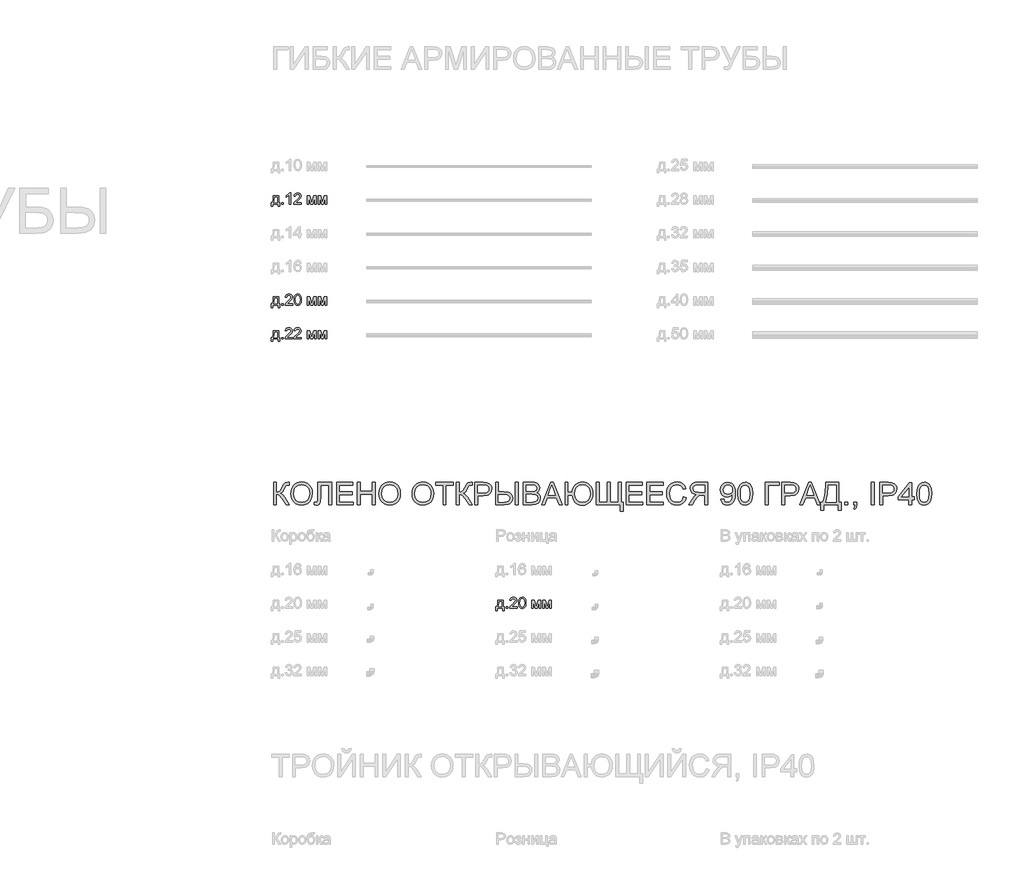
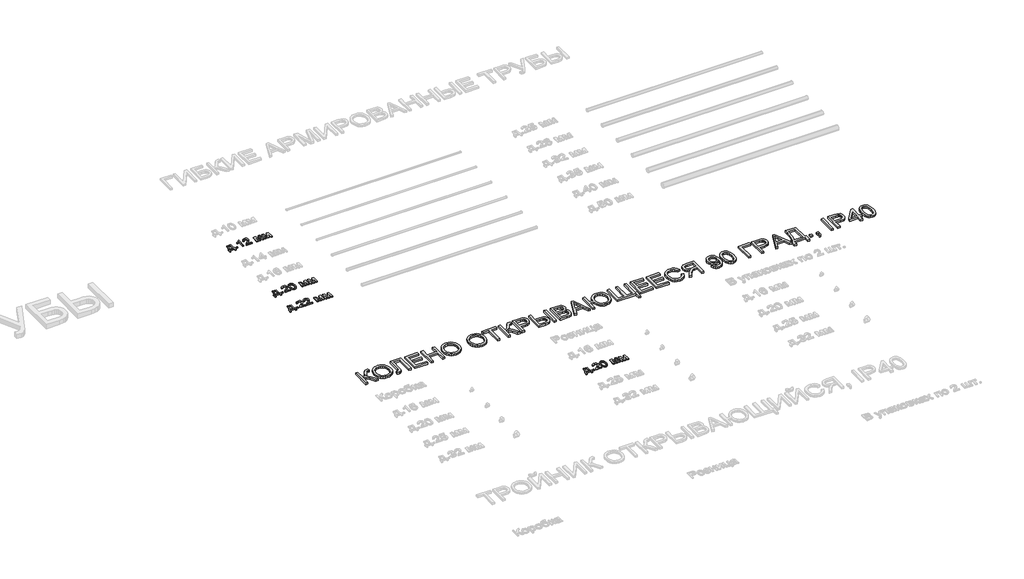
# One storey, part 81 of 98: 5 proxies.
"""IFC4 building model written with IfcOpenShell, lengths in millimetres."""

from ifc_helpers import new_model, si_unit, origin, origin_with_axes, place, context, project, spatial, polyline, outline, extrude, element, save

model = new_model("IFC4")

# Units and contexts
model_context = context("Model", 3, world=origin())
ifc_project = project(units=[si_unit("LENGTHUNIT", "METRE", prefix="MILLI")], contexts=[model_context])

# Site, building, storey
site = spatial("IfcSite", under=ifc_project)
building = spatial("IfcBuilding", under=site)
storey = spatial("IfcBuildingStorey", under=building, Name="Этаж 01", Elevation=0.0)

# Proxies
placement = place(None, origin())
element("IfcBuildingElementProxy", 1, Name="100", ObjectType="100", at=placement, inside=storey, context=model_context, shape_type="SweptSolid", body=[
    extrude(outline(polyline([(-26.9858135, -12085.678477), (20.1030819, -12085.678477), (20.1030819, -12146.894041), (29.520861, -12146.894041), (29.520861, -12179.8562677), (16.9638222, -12179.8562677), (16.9638222, -12159.4510797), (-34.8339627, -12159.4510797), (-34.8339627, -12179.8562677), (-47.3910015, -12179.8562677), (-47.3910015, -12146.894041), (-39.5428522, -12146.894041), (-29.8430303, -12122.9449231), (-26.9858135, -12085.678477)]), holes=[polyline([(-15.9984045, -12098.2355157), (-18.9414605, -12126.8444722), (-25.4161836, -12146.894041), (7.5460431, -12146.894041), (7.5460431, -12098.2355157), (-15.9984045, -12098.2355157)])]), origin_with_axes(), (0.0, 0.0, 1.0), 10.0),
    extrude(outline(polyline([(46.7867893, -12159.4510797), (46.7867893, -12146.894041), (59.3438281, -12146.894041), (59.3438281, -12159.4510797), (46.7867893, -12159.4510797)])), origin_with_axes(), (0.0, 0.0, 1.0), 10.0),
    extrude(outline(polyline([(126.8379114, -12159.4510797), (114.2808727, -12159.4510797), (114.2808727, -12081.1657912), (102.3860215, -12089.6393398), (89.1667951, -12095.9791728), (89.1667951, -12084.1088471), (107.5731576, -12072.3611487), (118.7445076, -12058.9947696), (126.8379114, -12058.9947696), (126.8379114, -12159.4510797)])), origin_with_axes(), (0.0, 0.0, 1.0), 10.0),
    extrude(outline(polyline([(221.0157022, -12146.894041), (221.0157022, -12159.4510797), (155.0912487, -12159.4510797), (156.4401493, -12150.7935901), (164.0675694, -12137.4639991), (179.7883933, -12122.9081349), (201.4689055, -12101.9879121), (206.8890336, -12087.7631416), (201.7754739, -12076.2484351), (188.4213574, -12071.5518083), (174.5031553, -12076.1380705), (169.2179173, -12088.8177367), (156.6608785, -12087.2481068), (159.705102, -12075.1018696), (166.2871241, -12066.2297821), (176.0635881, -12060.8035227), (188.6911376, -12058.9947696), (201.4106576, -12061.0058578), (211.1687275, -12067.0391225), (217.3767361, -12076.0522314), (219.4460724, -12087.0028521), (217.2142549, -12098.9099661), (209.7953014, -12111.2217502), (191.8058718, -12128.4263648), (177.3603721, -12140.505157), (171.6949894, -12146.894041), (221.0157022, -12146.894041)])), origin_with_axes(), (0.0, 0.0, 1.0), 10.0),
    extrude(outline(polyline([(275.9527468, -12085.678477), (297.5596827, -12085.678477), (314.2124743, -12144.7357999), (332.1651157, -12085.678477), (352.8646093, -12085.678477), (352.8646093, -12159.4510797), (340.3075705, -12159.4510797), (340.3075705, -12100.0504002), (322.2568273, -12159.4510797), (305.7757139, -12159.4510797), (288.5097856, -12097.2054461), (288.5097856, -12159.4510797), (275.9527468, -12159.4510797), (275.9527468, -12085.678477)])), origin_with_axes(), (0.0, 0.0, 1.0), 10.0),
    extrude(outline(polyline([(371.7001674, -12085.678477), (393.3071033, -12085.678477), (409.9598949, -12144.7357999), (427.9125363, -12085.678477), (448.6120299, -12085.678477), (448.6120299, -12159.4510797), (436.0549911, -12159.4510797), (436.0549911, -12100.0504002), (418.0042479, -12159.4510797), (401.5231345, -12159.4510797), (384.2572062, -12097.2054461), (384.2572062, -12159.4510797), (371.7001674, -12159.4510797), (371.7001674, -12085.678477)])), origin_with_axes(), (0.0, 0.0, 1.0), 10.0),
])
element("IfcBuildingElementProxy", 2, Name="100", ObjectType="100", at=placement, inside=storey, context=model_context, shape_type="SweptSolid", body=[
    extrude(outline(polyline([(-26.9858135, -12985.678477), (20.1030819, -12985.678477), (20.1030819, -13046.894041), (29.520861, -13046.894041), (29.520861, -13079.8562677), (16.9638222, -13079.8562677), (16.9638222, -13059.4510797), (-34.8339627, -13059.4510797), (-34.8339627, -13079.8562677), (-47.3910015, -13079.8562677), (-47.3910015, -13046.894041), (-39.5428522, -13046.894041), (-29.8430303, -13022.9449231), (-26.9858135, -12985.678477)]), holes=[polyline([(-15.9984045, -12998.2355157), (-18.9414605, -13026.8444722), (-25.4161836, -13046.894041), (7.5460431, -13046.894041), (7.5460431, -12998.2355157), (-15.9984045, -12998.2355157)])]), origin_with_axes(), (0.0, 0.0, 1.0), 10.0),
    extrude(outline(polyline([(46.7867893, -13059.4510797), (46.7867893, -13046.894041), (59.3438281, -13046.894041), (59.3438281, -13059.4510797), (46.7867893, -13059.4510797)])), origin_with_axes(), (0.0, 0.0, 1.0), 10.0),
    extrude(outline(polyline([(144.1038398, -13046.894041), (144.1038398, -13059.4510797), (78.1793862, -13059.4510797), (79.5282869, -13050.7935901), (87.1557069, -13037.4639991), (102.8765308, -13022.9081349), (124.5570431, -13001.9879121), (129.9771711, -12987.7631416), (124.8636114, -12976.2484351), (111.509495, -12971.5518083), (97.5912928, -12976.1380705), (92.3060548, -12988.8177367), (79.7490161, -12987.2481068), (82.7932396, -12975.1018696), (89.3752616, -12966.2297821), (99.1517256, -12960.8035227), (111.7792751, -12958.9947696), (124.4987951, -12961.0058578), (134.256865, -12967.0391225), (140.4648737, -12976.0522314), (142.5342099, -12987.0028521), (140.3023925, -12998.9099661), (132.8834389, -13011.2217502), (114.8940093, -13028.4263648), (100.4485097, -13040.505157), (94.7831269, -13046.894041), (144.1038398, -13046.894041)])), origin_with_axes(), (0.0, 0.0, 1.0), 10.0),
    extrude(outline(polyline([(156.6608785, -13010.032265), (160.3519612, -12981.129003), (171.3148447, -12964.4639486), (189.6231053, -12958.9947696), (204.2893342, -12962.2321311), (214.4183518, -12971.5640711), (220.3044637, -12986.4265037), (222.5853321, -13010.032265), (218.9310376, -13038.8128998), (208.0049423, -13055.5147424), (199.7735827, -13059.6442178), (189.6231053, -13061.0207096), (176.5755572, -13058.6294766), (166.6672688, -13051.4557777), (159.1624761, -13034.4657609), (156.6608785, -13010.032265)]), holes=[polyline([(169.2179173, -13010.0077396), (170.6894453, -13029.759937), (175.1040292, -13041.19187), (181.6768542, -13046.6457206), (189.6231053, -13048.4636708), (197.5693564, -13046.6395892), (204.1421814, -13041.1673446), (208.5567653, -13029.7292802), (210.0282933, -13010.0077396), (208.6058162, -12990.7000662), (204.3383851, -12979.1792284), (197.7778228, -12973.4586634), (189.4759525, -12971.5518083), (181.6155405, -12973.2318028), (175.3002329, -12978.2717861), (170.7384962, -12990.5099938), (169.2179173, -13010.0077396)])]), origin_with_axes(), (0.0, 0.0, 1.0), 10.0),
    extrude(outline(polyline([(275.9527468, -12985.678477), (297.5596827, -12985.678477), (314.2124743, -13044.7357999), (332.1651157, -12985.678477), (352.8646093, -12985.678477), (352.8646093, -13059.4510797), (340.3075705, -13059.4510797), (340.3075705, -13000.0504002), (322.2568273, -13059.4510797), (305.7757139, -13059.4510797), (288.5097856, -12997.2054461), (288.5097856, -13059.4510797), (275.9527468, -13059.4510797), (275.9527468, -12985.678477)])), origin_with_axes(), (0.0, 0.0, 1.0), 10.0),
    extrude(outline(polyline([(371.7001674, -12985.678477), (393.3071033, -12985.678477), (409.9598949, -13044.7357999), (427.9125363, -12985.678477), (448.6120299, -12985.678477), (448.6120299, -13059.4510797), (436.0549911, -13059.4510797), (436.0549911, -13000.0504002), (418.0042479, -13059.4510797), (401.5231345, -13059.4510797), (384.2572062, -12997.2054461), (384.2572062, -13059.4510797), (371.7001674, -13059.4510797), (371.7001674, -12985.678477)])), origin_with_axes(), (0.0, 0.0, 1.0), 10.0),
])
element("IfcBuildingElementProxy", 3, Name="100", ObjectType="100", at=placement, inside=storey, context=model_context, shape_type="SweptSolid", body=[
    extrude(outline(polyline([(-26.9858135, -13285.678477), (20.1030819, -13285.678477), (20.1030819, -13346.894041), (29.520861, -13346.894041), (29.520861, -13379.8562677), (16.9638222, -13379.8562677), (16.9638222, -13359.4510797), (-34.8339627, -13359.4510797), (-34.8339627, -13379.8562677), (-47.3910015, -13379.8562677), (-47.3910015, -13346.894041), (-39.5428522, -13346.894041), (-29.8430303, -13322.9449231), (-26.9858135, -13285.678477)]), holes=[polyline([(-15.9984045, -13298.2355157), (-18.9414605, -13326.8444722), (-25.4161836, -13346.894041), (7.5460431, -13346.894041), (7.5460431, -13298.2355157), (-15.9984045, -13298.2355157)])]), origin_with_axes(), (0.0, 0.0, 1.0), 10.0),
    extrude(outline(polyline([(46.7867893, -13359.4510797), (46.7867893, -13346.894041), (59.3438281, -13346.894041), (59.3438281, -13359.4510797), (46.7867893, -13359.4510797)])), origin_with_axes(), (0.0, 0.0, 1.0), 10.0),
    extrude(outline(polyline([(144.1038398, -13346.894041), (144.1038398, -13359.4510797), (78.1793862, -13359.4510797), (79.5282869, -13350.7935901), (87.1557069, -13337.4639991), (102.8765308, -13322.9081349), (124.5570431, -13301.9879121), (129.9771711, -13287.7631416), (124.8636114, -13276.2484351), (111.509495, -13271.5518083), (97.5912928, -13276.1380705), (92.3060548, -13288.8177367), (79.7490161, -13287.2481068), (82.7932396, -13275.1018696), (89.3752616, -13266.2297821), (99.1517256, -13260.8035227), (111.7792751, -13258.9947696), (124.4987951, -13261.0058578), (134.256865, -13267.0391225), (140.4648737, -13276.0522314), (142.5342099, -13287.0028521), (140.3023925, -13298.9099661), (132.8834389, -13311.2217502), (114.8940093, -13328.4263648), (100.4485097, -13340.505157), (94.7831269, -13346.894041), (144.1038398, -13346.894041)])), origin_with_axes(), (0.0, 0.0, 1.0), 10.0),
    extrude(outline(polyline([(221.0157022, -13346.894041), (221.0157022, -13359.4510797), (155.0912487, -13359.4510797), (156.4401493, -13350.7935901), (164.0675694, -13337.4639991), (179.7883933, -13322.9081349), (201.4689055, -13301.9879121), (206.8890336, -13287.7631416), (201.7754739, -13276.2484351), (188.4213574, -13271.5518083), (174.5031553, -13276.1380705), (169.2179173, -13288.8177367), (156.6608785, -13287.2481068), (159.705102, -13275.1018696), (166.2871241, -13266.2297821), (176.0635881, -13260.8035227), (188.6911376, -13258.9947696), (201.4106576, -13261.0058578), (211.1687275, -13267.0391225), (217.3767361, -13276.0522314), (219.4460724, -13287.0028521), (217.2142549, -13298.9099661), (209.7953014, -13311.2217502), (191.8058718, -13328.4263648), (177.3603721, -13340.505157), (171.6949894, -13346.894041), (221.0157022, -13346.894041)])), origin_with_axes(), (0.0, 0.0, 1.0), 10.0),
    extrude(outline(polyline([(275.9527468, -13285.678477), (297.5596827, -13285.678477), (314.2124743, -13344.7357999), (332.1651157, -13285.678477), (352.8646093, -13285.678477), (352.8646093, -13359.4510797), (340.3075705, -13359.4510797), (340.3075705, -13300.0504002), (322.2568273, -13359.4510797), (305.7757139, -13359.4510797), (288.5097856, -13297.2054461), (288.5097856, -13359.4510797), (275.9527468, -13359.4510797), (275.9527468, -13285.678477)])), origin_with_axes(), (0.0, 0.0, 1.0), 10.0),
    extrude(outline(polyline([(371.7001674, -13285.678477), (393.3071033, -13285.678477), (409.9598949, -13344.7357999), (427.9125363, -13285.678477), (448.6120299, -13285.678477), (448.6120299, -13359.4510797), (436.0549911, -13359.4510797), (436.0549911, -13300.0504002), (418.0042479, -13359.4510797), (401.5231345, -13359.4510797), (384.2572062, -13297.2054461), (384.2572062, -13359.4510797), (371.7001674, -13359.4510797), (371.7001674, -13285.678477)])), origin_with_axes(), (0.0, 0.0, 1.0), 10.0),
])
element("IfcBuildingElementProxy", 4, Name="100", ObjectType="100", at=placement, inside=storey, context=model_context, shape_type="SweptSolid", body=[
    extrude(outline(polyline([(1973.0141865, -15685.7395637), (2020.1030819, -15685.7395637), (2020.1030819, -15746.9551277), (2029.520861, -15746.9551277), (2029.520861, -15779.9173545), (2016.9638222, -15779.9173545), (2016.9638222, -15759.5121665), (1965.1660373, -15759.5121665), (1965.1660373, -15779.9173545), (1952.6089985, -15779.9173545), (1952.6089985, -15746.9551277), (1960.4571478, -15746.9551277), (1970.1569697, -15723.0060098), (1973.0141865, -15685.7395637)]), holes=[polyline([(1984.0015955, -15698.2966025), (1981.0585395, -15726.905559), (1974.5838164, -15746.9551277), (2007.5460431, -15746.9551277), (2007.5460431, -15698.2966025), (1984.0015955, -15698.2966025)])]), origin_with_axes(), (0.0, 0.0, 1.0), 10.0),
    extrude(outline(polyline([(2046.7867893, -15759.5121665), (2046.7867893, -15746.9551277), (2059.3438281, -15746.9551277), (2059.3438281, -15759.5121665), (2046.7867893, -15759.5121665)])), origin_with_axes(), (0.0, 0.0, 1.0), 10.0),
    extrude(outline(polyline([(2144.1038398, -15746.9551277), (2144.1038398, -15759.5121665), (2078.1793862, -15759.5121665), (2079.5282869, -15750.8546768), (2087.1557069, -15737.5250859), (2102.8765308, -15722.9692216), (2124.5570431, -15702.0489988), (2129.9771711, -15687.8242283), (2124.8636114, -15676.3095219), (2111.509495, -15671.6128951), (2097.5912928, -15676.1991573), (2092.3060548, -15688.8788234), (2079.7490161, -15687.3091935), (2082.7932396, -15675.1629563), (2089.3752616, -15666.2908689), (2099.1517256, -15660.8646095), (2111.7792751, -15659.0558563), (2124.4987951, -15661.0669445), (2134.256865, -15667.1002093), (2140.4648737, -15676.1133182), (2142.5342099, -15687.0639389), (2140.3023925, -15698.9710528), (2132.8834389, -15711.2828369), (2114.8940093, -15728.4874515), (2100.4485097, -15740.5662437), (2094.7831269, -15746.9551277), (2144.1038398, -15746.9551277)])), origin_with_axes(), (0.0, 0.0, 1.0), 10.0),
    extrude(outline(polyline([(2156.6608785, -15710.0933518), (2160.3519612, -15681.1900897), (2171.3148447, -15664.5250353), (2189.6231053, -15659.0558563), (2204.2893342, -15662.2932179), (2214.4183518, -15671.6251578), (2220.3044637, -15686.4875904), (2222.5853321, -15710.0933518), (2218.9310376, -15738.8739865), (2208.0049423, -15755.5758291), (2199.7735827, -15759.7053045), (2189.6231053, -15761.0817963), (2176.5755572, -15758.6905633), (2166.6672688, -15751.5168644), (2159.1624761, -15734.5268476), (2156.6608785, -15710.0933518)]), holes=[polyline([(2169.2179173, -15710.0688263), (2170.6894453, -15729.8210238), (2175.1040292, -15741.2529568), (2181.6768542, -15746.7068073), (2189.6231053, -15748.5247575), (2197.5693564, -15746.700676), (2204.1421814, -15741.2284313), (2208.5567653, -15729.7903669), (2210.0282933, -15710.0688263), (2208.6058162, -15690.7611529), (2204.3383851, -15679.2403151), (2197.7778228, -15673.5197501), (2189.4759525, -15671.6128951), (2181.6155405, -15673.2928895), (2175.3002329, -15678.3328729), (2170.7384962, -15690.5710806), (2169.2179173, -15710.0688263)])]), origin_with_axes(), (0.0, 0.0, 1.0), 10.0),
    extrude(outline(polyline([(2275.9527468, -15685.7395637), (2297.5596827, -15685.7395637), (2314.2124743, -15744.7968867), (2332.1651157, -15685.7395637), (2352.8646093, -15685.7395637), (2352.8646093, -15759.5121665), (2340.3075705, -15759.5121665), (2340.3075705, -15700.111487), (2322.2568273, -15759.5121665), (2305.7757139, -15759.5121665), (2288.5097856, -15697.2665329), (2288.5097856, -15759.5121665), (2275.9527468, -15759.5121665), (2275.9527468, -15685.7395637)])), origin_with_axes(), (0.0, 0.0, 1.0), 10.0),
    extrude(outline(polyline([(2371.7001674, -15685.7395637), (2393.3071033, -15685.7395637), (2409.9598949, -15744.7968867), (2427.9125363, -15685.7395637), (2448.6120299, -15685.7395637), (2448.6120299, -15759.5121665), (2436.0549911, -15759.5121665), (2436.0549911, -15700.111487), (2418.0042479, -15759.5121665), (2401.5231345, -15759.5121665), (2384.2572062, -15697.2665329), (2384.2572062, -15759.5121665), (2371.7001674, -15759.5121665), (2371.7001674, -15685.7395637)])), origin_with_axes(), (0.0, 0.0, 1.0), 10.0),
])
element("IfcBuildingElementProxy", 5, Name="200", ObjectType="200", at=placement, inside=storey, context=model_context, shape_type="SweptSolid", body=[
    extrude(outline(polyline([(-25.4161836, -14636.6247283), (-0.3021061, -14636.6247283), (-0.3021061, -14724.5239997), (16.7001735, -14722.8623994), (27.7795529, -14717.8775983), (36.7374795, -14706.148294), (47.3754005, -14684.253184), (61.232289, -14656.171525), (76.9285874, -14642.2655856), (99.3693891, -14636.6247283), (115.8505025, -14636.9190339), (115.8505025, -14662.0331114), (110.3077471, -14661.8859586), (104.7649917, -14661.7388059), (93.262548, -14663.247122), (85.1446187, -14667.7720706), (70.2331351, -14693.6219121), (52.452172, -14725.1126109), (35.1126673, -14735.5114086), (54.5000485, -14746.8666995), (73.6176495, -14770.5337746), (115.8505025, -14837.5373486), (86.7142485, -14837.5373486), (51.0051695, -14780.9325723), (25.8665665, -14751.3793853), (14.2598896, -14745.3645147), (-0.3021061, -14743.3595578), (-0.3021061, -14837.5373486), (-25.4161836, -14837.5373486), (-25.4161836, -14636.6247283)])), origin_with_axes(), (0.0, 0.0, 1.0), 20.0),
    extrude(outline(polyline([(128.4075413, -14739.7297888), (130.0814044, -14716.1638814), (135.1029936, -14695.3019065), (143.472309, -14677.1438644), (155.1893505, -14661.6897549), (169.5520768, -14649.3503797), (185.8584462, -14640.5365402), (204.1084588, -14635.2482365), (224.3021147, -14633.4854686), (250.6547283, -14636.7964066), (274.2850151, -14646.7292204), (293.9053882, -14662.5849344), (308.2282605, -14683.6645728), (316.983852, -14708.9503286), (319.9023825, -14737.424395), (316.8305679, -14766.2786061), (307.6151239, -14791.9199812), (292.764954, -14813.0364077), (272.7889617, -14828.3157733), (249.3610099, -14837.5863995), (224.1549619, -14840.6766083), (197.3976781, -14837.2614371), (173.6325012, -14827.0159236), (154.0611791, -14810.865904), (139.8854595, -14789.7372147), (131.2770209, -14765.4263462), (128.4075413, -14739.7297888)]), holes=[polyline([(153.5216188, -14739.9750435), (158.5432081, -14771.4044286), (173.6079758, -14795.3535465), (196.2511126, -14810.5102847), (224.0078091, -14815.5625308), (252.1691758, -14810.4612338), (274.8491008, -14795.1573428), (283.5725026, -14783.8848253), (289.8035039, -14770.4724609), (294.788305, -14737.2281913), (292.6545894, -14714.995856), (286.2534427, -14695.7801531), (275.7504117, -14680.0654606), (261.3110434, -14668.3361563), (243.8918309, -14661.0336987), (224.4492675, -14658.5995462), (197.4344663, -14663.2900416), (174.4663671, -14677.3615279), (165.3030397, -14688.3106158), (158.7578059, -14702.3958977), (153.5216188, -14739.9750435)])]), origin_with_axes(), (0.0, 0.0, 1.0), 20.0),
    extrude(outline(polyline([(370.1305376, -14636.6247283), (492.5616656, -14636.6247283), (492.5616656, -14837.5373486), (467.447588, -14837.5373486), (467.447588, -14661.7388059), (395.2446151, -14661.7388059), (395.2446151, -14764.2552552), (392.3260846, -14809.9952499), (387.8072675, -14822.9201707), (380.0878769, -14832.6077299), (369.5174009, -14838.6593887), (356.4453274, -14840.6766083), (335.598681, -14837.5373486), (338.7379407, -14812.4232711), (350.7554192, -14815.5625308), (359.2473619, -14813.876405), (365.2990207, -14808.8180275), (368.9226584, -14797.5056562), (370.1305376, -14777.0575486), (370.1305376, -14636.6247283)])), origin_with_axes(), (0.0, 0.0, 1.0), 20.0),
    extrude(outline(polyline([(536.5113013, -14837.5373486), (536.5113013, -14636.6247283), (680.9172471, -14636.6247283), (680.9172471, -14661.7388059), (561.6253788, -14661.7388059), (561.6253788, -14721.38474), (674.6387277, -14721.38474), (674.6387277, -14746.4988175), (561.6253788, -14746.4988175), (561.6253788, -14812.4232711), (684.0565068, -14812.4232711), (684.0565068, -14837.5373486), (536.5113013, -14837.5373486)])), origin_with_axes(), (0.0, 0.0, 1.0), 20.0),
    extrude(outline(polyline([(721.7276231, -14837.5373486), (721.7276231, -14636.6247283), (746.8417007, -14636.6247283), (746.8417007, -14718.2454803), (853.5765302, -14718.2454803), (853.5765302, -14636.6247283), (878.6906077, -14636.6247283), (878.6906077, -14837.5373486), (853.5765302, -14837.5373486), (853.5765302, -14743.3595578), (746.8417007, -14743.3595578), (746.8417007, -14837.5373486), (721.7276231, -14837.5373486)])), origin_with_axes(), (0.0, 0.0, 1.0), 20.0),
    extrude(outline(polyline([(913.2224643, -14739.7297888), (914.8963274, -14716.1638814), (919.9179166, -14695.3019065), (928.287232, -14677.1438644), (940.0042736, -14661.6897549), (954.3669998, -14649.3503797), (970.6733692, -14640.5365402), (988.9233819, -14635.2482365), (1009.1170377, -14633.4854686), (1035.4696513, -14636.7964066), (1059.0999382, -14646.7292204), (1078.7203112, -14662.5849344), (1093.0431836, -14683.6645728), (1101.7987751, -14708.9503286), (1104.7173056, -14737.424395), (1101.6454909, -14766.2786061), (1092.4300469, -14791.9199812), (1077.579877, -14813.0364077), (1057.6038847, -14828.3157733), (1034.175933, -14837.5863995), (1008.9698849, -14840.6766083), (982.2126012, -14837.2614371), (958.4474243, -14827.0159236), (938.8761021, -14810.865904), (924.7003826, -14789.7372147), (916.0919439, -14765.4263462), (913.2224643, -14739.7297888)]), holes=[polyline([(938.3365419, -14739.9750435), (943.3581311, -14771.4044286), (958.4228988, -14795.3535465), (981.0660356, -14810.5102847), (1008.8227321, -14815.5625308), (1036.9840989, -14810.4612338), (1059.6640239, -14795.1573428), (1068.3874257, -14783.8848253), (1074.618427, -14770.4724609), (1079.603228, -14737.2281913), (1077.4695124, -14714.995856), (1071.0683657, -14695.7801531), (1060.5653348, -14680.0654606), (1046.1259665, -14668.3361563), (1028.706754, -14661.0336987), (1009.2641905, -14658.5995462), (982.2493894, -14663.2900416), (959.2812901, -14677.3615279), (950.1179628, -14688.3106158), (943.5727289, -14702.3958977), (938.3365419, -14739.9750435)])]), origin_with_axes(), (0.0, 0.0, 1.0), 20.0),
    extrude(outline(polyline([(1208.3128754, -14739.7297888), (1209.9867385, -14716.1638814), (1215.0083277, -14695.3019065), (1223.3776431, -14677.1438644), (1235.0946846, -14661.6897549), (1249.4574109, -14649.3503797), (1265.7637803, -14640.5365402), (1284.013793, -14635.2482365), (1304.2074488, -14633.4854686), (1330.5600624, -14636.7964066), (1354.1903492, -14646.7292204), (1373.8107223, -14662.5849344), (1388.1335946, -14683.6645728), (1396.8891861, -14708.9503286), (1399.8077166, -14737.424395), (1396.735902, -14766.2786061), (1387.520458, -14791.9199812), (1372.6702881, -14813.0364077), (1352.6942958, -14828.3157733), (1329.266344, -14837.5863995), (1304.060296, -14840.6766083), (1277.3030122, -14837.2614371), (1253.5378353, -14827.0159236), (1233.9665132, -14810.865904), (1219.7907937, -14789.7372147), (1211.182355, -14765.4263462), (1208.3128754, -14739.7297888)]), holes=[polyline([(1233.4269529, -14739.9750435), (1238.4485422, -14771.4044286), (1253.5133099, -14795.3535465), (1276.1564467, -14810.5102847), (1303.9131432, -14815.5625308), (1332.0745099, -14810.4612338), (1354.7544349, -14795.1573428), (1363.4778368, -14783.8848253), (1369.7088381, -14770.4724609), (1374.6936391, -14737.2281913), (1372.5599235, -14714.995856), (1366.1587768, -14695.7801531), (1355.6557458, -14680.0654606), (1341.2163775, -14668.3361563), (1323.7971651, -14661.0336987), (1304.3546016, -14658.5995462), (1277.3398004, -14663.2900416), (1254.3717012, -14677.3615279), (1245.2083738, -14688.3106158), (1238.66314, -14702.3958977), (1233.4269529, -14739.9750435)])]), origin_with_axes(), (0.0, 0.0, 1.0), 20.0),
    extrude(outline(polyline([(1484.5677283, -14837.5373486), (1484.5677283, -14661.7388059), (1418.6432748, -14661.7388059), (1418.6432748, -14636.6247283), (1575.6062594, -14636.6247283), (1575.6062594, -14661.7388059), (1509.6818058, -14661.7388059), (1509.6818058, -14837.5373486), (1484.5677283, -14837.5373486)])), origin_with_axes(), (0.0, 0.0, 1.0), 20.0),
    extrude(outline(polyline([(1603.8595966, -14636.6247283), (1628.9736742, -14636.6247283), (1628.9736742, -14724.5239997), (1645.9759537, -14722.8623994), (1657.0553331, -14717.8775983), (1666.0132597, -14706.148294), (1676.6511807, -14684.253184), (1690.5080692, -14656.171525), (1706.2043677, -14642.2655856), (1728.6451694, -14636.6247283), (1745.1262828, -14636.9190339), (1745.1262828, -14662.0331114), (1739.5835274, -14661.8859586), (1734.040772, -14661.7388059), (1722.5383283, -14663.247122), (1714.4203989, -14667.7720706), (1699.5089154, -14693.6219121), (1681.7279523, -14725.1126109), (1664.3884476, -14735.5114086), (1683.7758287, -14746.8666995), (1702.8934297, -14770.5337746), (1745.1262828, -14837.5373486), (1715.9900287, -14837.5373486), (1680.2809497, -14780.9325723), (1655.1423467, -14751.3793853), (1643.5356698, -14745.3645147), (1628.9736742, -14743.3595578), (1628.9736742, -14837.5373486), (1603.8595966, -14837.5373486), (1603.8595966, -14636.6247283)])), origin_with_axes(), (0.0, 0.0, 1.0), 20.0),
    extrude(outline(polyline([(1767.1011006, -14837.5373486), (1767.1011006, -14636.6247283), (1841.5604164, -14636.6247283), (1871.5795872, -14638.5377147), (1895.9824263, -14647.9309683), (1904.8545137, -14656.2573641), (1911.801352, -14667.3551376), (1916.2895124, -14680.4456053), (1917.7855658, -14694.7500836), (1913.7449953, -14718.4294213), (1901.6232835, -14738.160159), (1891.9157974, -14745.9286004), (1878.9556212, -14751.4774872), (1843.2771991, -14755.9165966), (1792.2151781, -14755.9165966), (1792.2151781, -14837.5373486), (1767.1011006, -14837.5373486)]), holes=[polyline([(1792.2151781, -14730.8025191), (1844.7487271, -14730.8025191), (1867.0178505, -14728.4971252), (1881.7331303, -14721.5809437), (1889.9368988, -14710.4831702), (1892.6714883, -14695.6330003), (1891.0589389, -14684.3512858), (1886.2212906, -14674.8354049), (1878.7594175, -14667.6739687), (1869.2741934, -14663.4555885), (1844.1601159, -14661.7388059), (1792.2151781, -14661.7388059), (1792.2151781, -14730.8025191)])]), origin_with_axes(), (0.0, 0.0, 1.0), 20.0),
    extrude(outline(polyline([(1952.3174224, -14636.6247283), (1977.4315, -14636.6247283), (1977.4315, -14721.38474), (2025.6976178, -14721.38474), (2064.9751521, -14725.7747985), (2078.5346693, -14731.2623716), (2088.0413532, -14738.9449739), (2099.2617541, -14757.6824302), (2103.0018877, -14778.7743313), (2099.0471562, -14800.8043314), (2087.1829619, -14819.9035383), (2077.5766433, -14827.6183303), (2064.5766133, -14833.128896), (2028.395419, -14837.5373486), (1952.3174224, -14837.5373486), (1952.3174224, -14636.6247283)]), holes=[polyline([(1977.4315, -14812.4232711), (2028.1501644, -14812.4232711), (2050.7074621, -14810.4305769), (2066.0910608, -14804.4524945), (2074.9386228, -14794.0843536), (2077.8878101, -14778.921484), (2076.1035825, -14767.9708633), (2070.7508994, -14758.9577544), (2062.5716564, -14752.3726667), (2052.3077487, -14748.7061095), (2014.563056, -14746.4988175), (1977.4315, -14746.4988175), (1977.4315, -14812.4232711)])]), origin_with_axes(), (0.0, 0.0, 1.0), 20.0),
    extrude(outline(polyline([(2128.1159652, -14636.6247283), (2153.2300427, -14636.6247283), (2153.2300427, -14837.5373486), (2128.1159652, -14837.5373486), (2128.1159652, -14636.6247283)])), origin_with_axes(), (0.0, 0.0, 1.0), 20.0),
    extrude(outline(polyline([(2200.3189381, -14837.5373486), (2200.3189381, -14636.6247283), (2276.9855459, -14636.6247283), (2298.0713156, -14638.1023877), (2314.5340349, -14642.5353657), (2327.1523873, -14650.034027), (2336.7050565, -14660.7087363), (2342.7199271, -14673.265775), (2344.724884, -14686.411425), (2343.0387582, -14698.5086113), (2337.9803807, -14709.8822963), (2329.5129635, -14719.8335043), (2317.5997182, -14727.6632594), (2331.83062, -14735.0944757), (2342.3459137, -14746.4007157), (2348.8390309, -14760.8339526), (2351.0034034, -14777.6461598), (2345.092766, -14804.6486982), (2330.4510626, -14823.8766639), (2308.598872, -14834.0792579), (2276.3969347, -14837.5373486), (2200.3189381, -14837.5373486)]), holes=[polyline([(2225.4330157, -14812.4232711), (2276.936495, -14812.4232711), (2295.5758494, -14811.4422524), (2311.3457243, -14805.9730734), (2321.7935729, -14794.8139862), (2325.8893258, -14777.8914145), (2321.0823344, -14758.3691433), (2314.7854209, -14751.3119403), (2305.5086633, -14746.7195467), (2274.4839484, -14743.3595578), (2225.4330157, -14743.3595578), (2225.4330157, -14812.4232711)]), polyline([(2225.4330157, -14718.2454803), (2271.2956377, -14718.2454803), (2298.077447, -14716.0872393), (2314.1906784, -14706.7920875), (2319.6108064, -14690.4336015), (2314.5585604, -14674.05059), (2300.0885352, -14664.3630308), (2267.8130215, -14661.7388059), (2225.4330157, -14661.7388059), (2225.4330157, -14718.2454803)])]), origin_with_axes(), (0.0, 0.0, 1.0), 20.0),
    extrude(outline(polyline([(2362.1379651, -14837.5373486), (2442.33624, -14636.6247283), (2463.7224467, -14636.6247283), (2543.9207216, -14837.5373486), (2517.384167, -14837.5373486), (2494.3792796, -14774.7521548), (2411.6303562, -14774.7521548), (2388.6745197, -14837.5373486), (2362.1379651, -14837.5373486)]), holes=[polyline([(2420.8519315, -14749.6380772), (2485.2067552, -14749.6380772), (2467.106961, -14700.243788), (2453.0293433, -14661.7388059), (2440.5213555, -14695.9273059), (2420.8519315, -14749.6380772)])]), origin_with_axes(), (0.0, 0.0, 1.0), 20.0),
    extrude(outline(polyline([(2570.7515818, -14636.6247283), (2595.8656593, -14636.6247283), (2595.8656593, -14724.5239997), (2633.5367756, -14724.5239997), (2636.4323135, -14704.7809993), (2642.1758712, -14687.147189), (2650.7674486, -14671.6225688), (2662.2070458, -14658.2071387), (2675.8386066, -14647.391408), (2691.0060747, -14639.6658861), (2707.7094501, -14635.030573), (2725.9487328, -14633.4854686), (2745.1491073, -14635.2114483), (2762.6265678, -14640.3893874), (2778.3811142, -14649.0192859), (2792.4127466, -14661.1011437), (2803.9366501, -14676.1383203), (2812.1680098, -14693.6341748), (2817.1068256, -14713.5887074), (2818.7530975, -14736.0019179), (2817.1052927, -14759.2597242), (2812.1618784, -14779.8350577), (2803.9228546, -14797.7279182), (2792.3882212, -14812.9383059), (2778.2876109, -14825.0738132), (2762.3506563, -14833.7420327), (2744.5773574, -14838.9429644), (2724.9677142, -14840.6766083), (2707.0825179, -14839.1652264), (2690.7546886, -14834.6310809), (2675.9842265, -14827.0741715), (2662.7711315, -14816.4944985), (2651.6181757, -14803.247681), (2643.0281311, -14787.6893383), (2633.5367756, -14749.6380772), (2595.8656593, -14749.6380772), (2595.8656593, -14837.5373486), (2570.7515818, -14837.5373486), (2570.7515818, -14636.6247283)]), holes=[polyline([(2658.6508532, -14738.160159), (2663.2922977, -14770.8280802), (2677.2166312, -14795.2554446), (2698.6825456, -14810.4857592), (2725.9487328, -14815.5625308), (2753.6931666, -14810.4673651), (2775.2203947, -14795.1818682), (2789.0343636, -14770.3314395), (2793.6390199, -14736.5414782), (2789.10794, -14704.1433372), (2775.5147003, -14679.4461926), (2754.1959387, -14663.8112078), (2726.4882931, -14658.5995462), (2698.3575832, -14663.8786528), (2676.8487492, -14679.7159727), (2663.2003272, -14704.8852325), (2658.6508532, -14738.160159)])]), origin_with_axes(), (0.0, 0.0, 1.0), 20.0),
    extrude(outline(polyline([(2850.1456944, -14636.6247283), (2875.2597719, -14636.6247283), (2875.2597719, -14812.4232711), (2947.4627449, -14812.4232711), (2947.4627449, -14636.6247283), (2972.5768224, -14636.6247283), (2972.5768224, -14812.4232711), (3044.7797953, -14812.4232711), (3044.7797953, -14636.6247283), (3069.8938729, -14636.6247283), (3069.8938729, -14812.4232711), (3088.729431, -14812.4232711), (3088.729431, -14894.0440231), (3063.6153535, -14894.0440231), (3063.6153535, -14837.5373486), (2850.1456944, -14837.5373486), (2850.1456944, -14636.6247283)])), origin_with_axes(), (0.0, 0.0, 1.0), 20.0),
    extrude(outline(polyline([(3113.8435086, -14837.5373486), (3113.8435086, -14636.6247283), (3258.2494544, -14636.6247283), (3258.2494544, -14661.7388059), (3138.9575861, -14661.7388059), (3138.9575861, -14721.38474), (3251.970935, -14721.38474), (3251.970935, -14746.4988175), (3138.9575861, -14746.4988175), (3138.9575861, -14812.4232711), (3261.3887141, -14812.4232711), (3261.3887141, -14837.5373486), (3113.8435086, -14837.5373486)])), origin_with_axes(), (0.0, 0.0, 1.0), 20.0),
    extrude(outline(polyline([(3299.0598304, -14837.5373486), (3299.0598304, -14636.6247283), (3443.4657762, -14636.6247283), (3443.4657762, -14661.7388059), (3324.1739079, -14661.7388059), (3324.1739079, -14721.38474), (3437.1872568, -14721.38474), (3437.1872568, -14746.4988175), (3324.1739079, -14746.4988175), (3324.1739079, -14812.4232711), (3446.6050359, -14812.4232711), (3446.6050359, -14837.5373486), (3299.0598304, -14837.5373486)])), origin_with_axes(), (0.0, 0.0, 1.0), 20.0),
    extrude(outline(polyline([(3625.5428384, -14766.1191906), (3650.6569159, -14772.5939137), (3639.0686331, -14801.8589264), (3620.8829998, -14823.2390017), (3596.9951955, -14836.3172067), (3568.3003999, -14840.6766083), (3539.1702773, -14837.3779331), (3516.0366311, -14827.4819074), (3498.304719, -14811.3318878), (3485.3797982, -14789.2712308), (3477.4887294, -14763.3355502), (3474.8583732, -14735.5604596), (3477.8320859, -14706.26479), (3486.7532243, -14680.9667715), (3501.1558044, -14660.469613), (3520.5738424, -14645.5765235), (3543.6032553, -14636.5082323), (3568.8399602, -14633.4854686), (3596.3759275, -14637.3972805), (3619.1416917, -14649.1327162), (3636.4260141, -14667.9682743), (3647.5176562, -14693.1804537), (3622.4035787, -14699.1646675), (3613.6970381, -14680.8502755), (3601.802187, -14668.2871054), (3586.5718724, -14661.021436), (3567.8589415, -14658.5995462), (3546.2887939, -14661.2850847), (3528.5691444, -14669.3417004), (3515.1230575, -14681.9232647), (3506.3735974, -14698.1836488), (3501.5727374, -14716.5654859), (3499.9724507, -14735.5114086), (3501.867043, -14758.7124998), (3507.5508198, -14778.7743313), (3517.238379, -14794.9304822), (3531.1443184, -14806.4145318), (3547.8155042, -14813.275531), (3565.7988024, -14815.5625308), (3586.7619447, -14812.4477965), (3604.2302081, -14803.1035939), (3617.4187776, -14787.6280246), (3625.5428384, -14766.1191906)])), origin_with_axes(), (0.0, 0.0, 1.0), 20.0),
    extrude(outline(polyline([(3842.1517571, -14837.5373486), (3817.0376796, -14837.5373486), (3817.0376796, -14749.6380772), (3786.7242032, -14749.6380772), (3772.1560762, -14750.520994), (3760.2121741, -14755.30346), (3746.9438968, -14768.3264826), (3728.0592877, -14795.8931068), (3701.9151406, -14837.5373486), (3672.7298356, -14837.5373486), (3706.2316227, -14783.0908133), (3726.5877597, -14757.2409718), (3740.8615811, -14746.4988175), (3716.121517, -14739.8401534), (3698.8004063, -14727.8104122), (3688.591681, -14711.4028752), (3685.1887725, -14691.6108239), (3687.2427803, -14675.6999276), (3693.4048038, -14661.2237711), (3703.0065238, -14649.5496491), (3715.3796216, -14642.0448564), (3732.3083247, -14637.9797603), (3755.5768609, -14636.6247283), (3842.1517571, -14636.6247283), (3842.1517571, -14837.5373486)]), holes=[polyline([(3817.0376796, -14724.5239997), (3817.0376796, -14661.7388059), (3754.4977404, -14661.7388059), (3734.6259813, -14663.9093096), (3720.922377, -14670.4208209), (3712.9577318, -14680.2923211), (3710.3028501, -14692.5427916), (3715.8701309, -14709.5879907), (3722.7249988, -14716.3447567), (3732.1550406, -14720.9678071), (3760.8253107, -14724.5239997), (3817.0376796, -14724.5239997)])]), origin_with_axes(), (0.0, 0.0, 1.0), 20.0),
    extrude(outline(polyline([(3958.3043657, -14787.3091935), (3983.4184433, -14784.1699338), (3987.7103999, -14798.4253612), (3994.7001578, -14808.1313145), (4004.2160387, -14813.7047267), (4016.0863645, -14815.5625308), (4036.4179761, -14810.7800648), (4050.2012881, -14798.0022969), (4058.4173194, -14776.1746318), (4062.0470884, -14747.0383778), (4061.8999356, -14742.1332845), (4053.1995264, -14752.7528115), (4041.8135787, -14761.1650464), (4028.5636955, -14766.6464881), (4014.2714799, -14768.4736354), (3991.3708257, -14764.0100005), (3972.308407, -14750.6190959), (3959.4509313, -14729.931865), (3955.1651061, -14703.5792514), (3959.6593978, -14676.3559838), (3973.1422729, -14655.0188281), (3993.3941767, -14641.2232533), (4018.1955546, -14636.6247283), (4036.9268795, -14639.2489532), (4053.97821, -14647.1216279), (4068.2397686, -14659.8503449), (4078.6017782, -14677.0426969), (4084.9109544, -14700.8078737), (4087.0140131, -14733.2550657), (4084.9170858, -14767.6581636), (4078.6263036, -14794.2499005), (4068.1968491, -14814.2320242), (4053.6839044, -14828.8062826), (4035.7128689, -14837.7090269), (4014.9091421, -14840.6766083), (3993.4370963, -14837.175598), (3976.306058, -14826.672567), (3964.3253677, -14809.829703), (3958.3043657, -14787.3091935)]), holes=[polyline([(4061.8999356, -14702.9906402), (4059.1898716, -14685.9699666), (4051.0596795, -14672.8733676), (4038.441327, -14664.5224463), (4022.266782, -14661.7388059), (4005.491363, -14664.7370441), (3992.0514074, -14673.7317589), (3983.2222396, -14687.4966769), (3980.2791836, -14704.8055248), (3983.062824, -14720.3240136), (3991.4137453, -14732.6419291), (4004.5226071, -14740.6801506), (4021.5800689, -14743.3595578), (4037.6258553, -14740.6801506), (4050.5446447, -14732.6419291), (4059.0611129, -14719.8702925), (4061.8999356, -14702.9906402)])]), origin_with_axes(), (0.0, 0.0, 1.0), 20.0),
    extrude(outline(polyline([(4108.988831, -14738.6997192), (4110.8343723, -14706.5407015), (4116.3709963, -14680.8931951), (4125.5435208, -14661.3647925), (4138.2967633, -14647.5630863), (4154.7226943, -14639.3593178), (4174.9132845, -14636.6247283), (4190.3888538, -14638.2434091), (4204.2457423, -14643.0994514), (4215.8340251, -14651.002783), (4224.5037775, -14661.7633313), (4236.2760013, -14691.4881965), (4240.837738, -14738.6997192), (4239.0105908, -14770.674796), (4233.5291491, -14796.2609888), (4224.411807, -14815.8077854), (4211.6769586, -14829.6646739), (4195.2142393, -14837.9236247), (4174.9132845, -14840.6766083), (4148.8181883, -14835.8941424), (4129.0016115, -14821.5467446), (4120.24602, -14806.4175975), (4113.9920261, -14787.5667109), (4108.988831, -14738.6997192)]), holes=[polyline([(4134.1029085, -14738.6506683), (4137.0459645, -14778.1550632), (4145.8751324, -14801.0189292), (4159.0207823, -14811.9266304), (4174.9132845, -14815.5625308), (4190.8057867, -14811.9143676), (4203.9514367, -14800.9698783), (4212.7806045, -14778.0937496), (4215.7236605, -14738.6506683), (4212.8787064, -14700.0353215), (4204.3438441, -14676.9936459), (4191.2227196, -14665.5525159), (4174.6189789, -14661.7388059), (4158.898155, -14665.0987947), (4146.2675398, -14675.1787614), (4137.1440663, -14699.6551768), (4134.1029085, -14738.6506683)])]), origin_with_axes(), (0.0, 0.0, 1.0), 20.0),
    extrude(outline(polyline([(4353.851087, -14636.6247283), (4479.4214746, -14636.6247283), (4479.4214746, -14661.7388059), (4378.9651645, -14661.7388059), (4378.9651645, -14837.5373486), (4353.851087, -14837.5373486), (4353.851087, -14636.6247283)])), origin_with_axes(), (0.0, 0.0, 1.0), 20.0),
    extrude(outline(polyline([(4501.3962925, -14837.5373486), (4501.3962925, -14636.6247283), (4575.8556083, -14636.6247283), (4605.8747791, -14638.5377147), (4630.2776181, -14647.9309683), (4639.1497056, -14656.2573641), (4646.0965439, -14667.3551376), (4650.5847043, -14680.4456053), (4652.0807577, -14694.7500836), (4648.0401871, -14718.4294213), (4635.9184754, -14738.160159), (4626.2109892, -14745.9286004), (4613.2508131, -14751.4774872), (4577.572391, -14755.9165966), (4526.51037, -14755.9165966), (4526.51037, -14837.5373486), (4501.3962925, -14837.5373486)]), holes=[polyline([(4526.51037, -14730.8025191), (4579.0439189, -14730.8025191), (4601.3130424, -14728.4971252), (4616.0283222, -14721.5809437), (4624.2320907, -14710.4831702), (4626.9666802, -14695.6330003), (4625.3541308, -14684.3512858), (4620.5164825, -14674.8354049), (4613.0546094, -14667.6739687), (4603.5693853, -14663.4555885), (4578.4553077, -14661.7388059), (4526.51037, -14661.7388059), (4526.51037, -14730.8025191)])]), origin_with_axes(), (0.0, 0.0, 1.0), 20.0),
    extrude(outline(polyline([(4663.2153194, -14837.5373486), (4743.4135944, -14636.6247283), (4764.799801, -14636.6247283), (4844.998076, -14837.5373486), (4818.4615214, -14837.5373486), (4795.456634, -14774.7521548), (4712.7077105, -14774.7521548), (4689.751874, -14837.5373486), (4663.2153194, -14837.5373486)]), holes=[polyline([(4721.9292859, -14749.6380772), (4786.2841096, -14749.6380772), (4768.1843154, -14700.243788), (4754.1066977, -14661.7388059), (4741.5987099, -14695.9273059), (4721.9292859, -14749.6380772)])]), origin_with_axes(), (0.0, 0.0, 1.0), 20.0),
    extrude(outline(polyline([(4890.6644943, -14636.6247283), (5009.9563626, -14636.6247283), (5009.9563626, -14812.4232711), (5028.7919208, -14812.4232711), (5028.7919208, -14884.626244), (5003.6778432, -14884.626244), (5003.6778432, -14837.5373486), (4874.9681959, -14837.5373486), (4874.9681959, -14884.626244), (4849.8541183, -14884.626244), (4849.8541183, -14812.4232711), (4865.5504168, -14812.4232711), (4876.5378257, -14789.6421785), (4884.3859749, -14757.5965911), (4889.0948645, -14716.2865087), (4890.6644943, -14665.7119314), (4890.6644943, -14636.6247283)]), holes=[polyline([(4984.8422851, -14661.7388059), (4915.7785719, -14661.7388059), (4915.7785719, -14671.843298), (4910.6772749, -14740.6617566), (4903.1234312, -14780.4298002), (4890.6644943, -14812.4232711), (4984.8422851, -14812.4232711), (4984.8422851, -14661.7388059)])]), origin_with_axes(), (0.0, 0.0, 1.0), 20.0),
    extrude(outline(polyline([(5063.3237774, -14837.5373486), (5063.3237774, -14812.4232711), (5088.4378549, -14812.4232711), (5088.4378549, -14837.5373486), (5063.3237774, -14837.5373486)])), origin_with_axes(), (0.0, 0.0, 1.0), 20.0),
    extrude(outline(polyline([(5141.8052697, -14837.5373486), (5141.8052697, -14812.4232711), (5166.9193472, -14812.4232711), (5166.9193472, -14837.5373486), (5162.4066614, -14863.2155119), (5156.5696004, -14871.8913956), (5148.0837891, -14878.3477246), (5141.8052697, -14868.9299455), (5151.026845, -14858.0896894), (5154.3132575, -14837.5373486), (5141.8052697, -14837.5373486)])), origin_with_axes(), (0.0, 0.0, 1.0), 20.0),
    extrude(outline(polyline([(5298.7682543, -14837.5373486), (5298.7682543, -14636.6247283), (5323.8823318, -14636.6247283), (5323.8823318, -14837.5373486), (5298.7682543, -14837.5373486)])), origin_with_axes(), (0.0, 0.0, 1.0), 20.0),
    extrude(outline(polyline([(5374.1104869, -14837.5373486), (5374.1104869, -14636.6247283), (5448.5698027, -14636.6247283), (5478.5889735, -14638.5377147), (5502.9918126, -14647.9309683), (5511.8639, -14656.2573641), (5518.8107384, -14667.3551376), (5523.2988987, -14680.4456053), (5524.7949521, -14694.7500836), (5520.7543816, -14718.4294213), (5508.6326698, -14738.160159), (5498.9251837, -14745.9286004), (5485.9650076, -14751.4774872), (5450.2865854, -14755.9165966), (5399.2245645, -14755.9165966), (5399.2245645, -14837.5373486), (5374.1104869, -14837.5373486)]), holes=[polyline([(5399.2245645, -14730.8025191), (5451.7581134, -14730.8025191), (5474.0272368, -14728.4971252), (5488.7425166, -14721.5809437), (5496.9462851, -14710.4831702), (5499.6808746, -14695.6330003), (5498.0683252, -14684.3512858), (5493.230677, -14674.8354049), (5485.7688038, -14667.6739687), (5476.2835797, -14663.4555885), (5451.1695022, -14661.7388059), (5399.2245645, -14661.7388059), (5399.2245645, -14730.8025191)])]), origin_with_axes(), (0.0, 0.0, 1.0), 20.0),
    extrude(outline(polyline([(5631.5297817, -14837.5373486), (5631.5297817, -14790.4484532), (5540.4912506, -14790.4484532), (5540.4912506, -14765.3343757), (5637.8083011, -14639.763988), (5656.6438592, -14639.763988), (5656.6438592, -14765.3343757), (5681.7579368, -14765.3343757), (5681.7579368, -14790.4484532), (5656.6438592, -14790.4484532), (5656.6438592, -14837.5373486), (5631.5297817, -14837.5373486)]), holes=[polyline([(5631.5297817, -14765.3343757), (5631.5297817, -14687.7358002), (5571.3933382, -14765.3343757), (5631.5297817, -14765.3343757)])]), origin_with_axes(), (0.0, 0.0, 1.0), 20.0),
    extrude(outline(polyline([(5703.7327546, -14738.6997192), (5705.5782959, -14706.5407015), (5711.11492, -14680.8931951), (5720.2874444, -14661.3647925), (5733.0406869, -14647.5630863), (5749.466618, -14639.3593178), (5769.6572081, -14636.6247283), (5785.1327774, -14638.2434091), (5798.9896659, -14643.0994514), (5810.5779487, -14651.002783), (5819.2477011, -14661.7633313), (5831.0199249, -14691.4881965), (5835.5816617, -14738.6997192), (5833.7545144, -14770.674796), (5828.2730727, -14796.2609888), (5819.1557306, -14815.8077854), (5806.4208822, -14829.6646739), (5789.9581629, -14837.9236247), (5769.6572081, -14840.6766083), (5743.5621119, -14835.8941424), (5723.7455351, -14821.5467446), (5714.9899436, -14806.4175975), (5708.7359497, -14787.5667109), (5703.7327546, -14738.6997192)]), holes=[polyline([(5728.8468321, -14738.6506683), (5731.7898881, -14778.1550632), (5740.619056, -14801.0189292), (5753.7647059, -14811.9266304), (5769.6572081, -14815.5625308), (5785.5497103, -14811.9143676), (5798.6953603, -14800.9698783), (5807.5245282, -14778.0937496), (5810.4675841, -14738.6506683), (5807.62263, -14700.0353215), (5799.0877677, -14676.9936459), (5785.9666433, -14665.5525159), (5769.3629025, -14661.7388059), (5753.6420786, -14665.0987947), (5741.0114634, -14675.1787614), (5731.88799, -14699.6551768), (5728.8468321, -14738.6506683)])]), origin_with_axes(), (0.0, 0.0, 1.0), 20.0),
])

save(model, "model.ifc")
